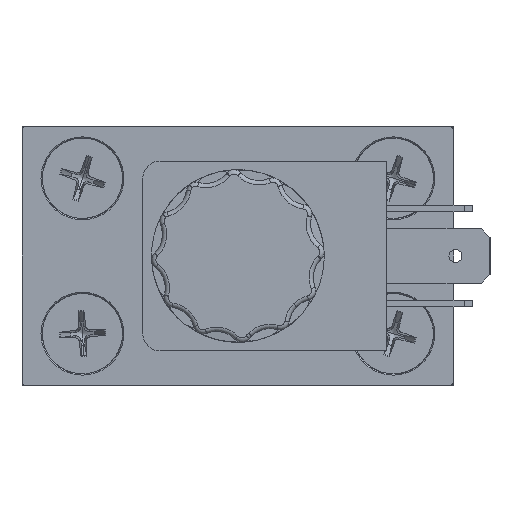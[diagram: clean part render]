
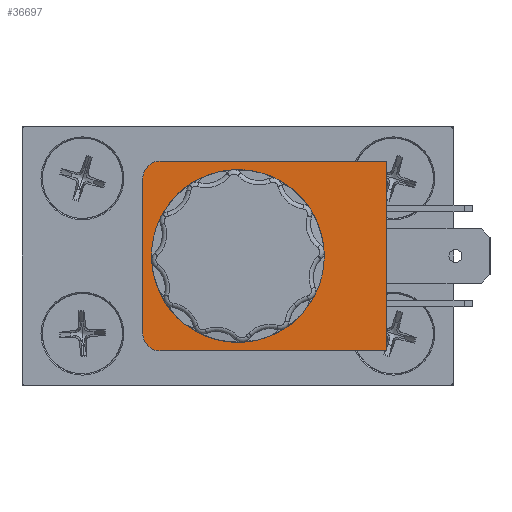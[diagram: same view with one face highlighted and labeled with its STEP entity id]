
A CAD part, left-side view. The second image highlights one B-rep face of the part: STEP entity #36697.
In plain terms, the highlighted planar face has unit normal (-1, 0, 0) as drawn and (0, 0, 1) by its records, which use the part's own axes.
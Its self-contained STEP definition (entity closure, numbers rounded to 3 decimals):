
#13411 = AXIS2_PLACEMENT_3D ( 'NONE', #25560, #25561, #25562 ) ;
#13413 = AXIS2_PLACEMENT_3D ( 'NONE', #25557, #25558, #25559 ) ;
#13415 = AXIS2_PLACEMENT_3D ( 'NONE', #25587, #25588, #25589 ) ;
#13430 = AXIS2_PLACEMENT_3D ( 'NONE', #25746, #25748, #25749 ) ;
#13437 = AXIS2_PLACEMENT_3D ( 'NONE', #25772, #25779, #25780 ) ;
#13440 = AXIS2_PLACEMENT_3D ( 'NONE', #25791, #25798, #25799 ) ;
#24669 = CIRCLE ( 'NONE', #13413, 2. ) ;
#24670 = CIRCLE ( 'NONE', #13411, 2. ) ;
#24686 = CIRCLE ( 'NONE', #13415, 8.3 ) ;
#24819 = CIRCLE ( 'NONE', #13430, 8.3 ) ;
#24834 = LINE ( 'NONE', #25783, #24842 ) ;
#24839 = CIRCLE ( 'NONE', #13437, 2. ) ;
#24842 = VECTOR ( 'NONE', #25787, 1000. ) ;
#24843 = LINE ( 'NONE', #25790, #24847 ) ;
#24847 = VECTOR ( 'NONE', #25794, 1000. ) ;
#24852 = CIRCLE ( 'NONE', #13440, 2. ) ;
#24855 = LINE ( 'NONE', #25804, #24856 ) ;
#24856 = VECTOR ( 'NONE', #25805, 1000. ) ;
#24859 = LINE ( 'NONE', #25808, #24860 ) ;
#24860 = VECTOR ( 'NONE', #25809, 1000. ) ;
#25557 = CARTESIAN_POINT ( 'NONE',  ( 9., 9., 30.5 ) ) ;
#25558 = DIRECTION ( 'NONE',  ( 0., 0., -1. ) ) ;
#25559 = DIRECTION ( 'NONE',  ( 0.707, 0.707, 0. ) ) ;
#25560 = CARTESIAN_POINT ( 'NONE',  ( -9., 9., 30.5 ) ) ;
#25561 = DIRECTION ( 'NONE',  ( 0., 0., -1. ) ) ;
#25562 = DIRECTION ( 'NONE',  ( -0.707, 0.707, 0. ) ) ;
#25587 = CARTESIAN_POINT ( 'NONE',  ( 0., 0., 30.5 ) ) ;
#25588 = DIRECTION ( 'NONE',  ( 0., 0., -1. ) ) ;
#25589 = DIRECTION ( 'NONE',  ( -1., 0., 0. ) ) ;
#25746 = CARTESIAN_POINT ( 'NONE',  ( 0., 0., 30.5 ) ) ;
#25748 = DIRECTION ( 'NONE',  ( 0., 0., -1. ) ) ;
#25749 = DIRECTION ( 'NONE',  ( -1., 0., 0. ) ) ;
#25772 = CARTESIAN_POINT ( 'NONE',  ( 9., 9., 30.5 ) ) ;
#25779 = DIRECTION ( 'NONE',  ( 0., 0., -1. ) ) ;
#25780 = DIRECTION ( 'NONE',  ( 0.707, 0.707, 0. ) ) ;
#25783 = CARTESIAN_POINT ( 'NONE',  ( -9., 11., 30.5 ) ) ;
#25787 = DIRECTION ( 'NONE',  ( 1., 0., 0. ) ) ;
#25790 = CARTESIAN_POINT ( 'NONE',  ( 11., 9., 30.5 ) ) ;
#25791 = CARTESIAN_POINT ( 'NONE',  ( -9., 9., 30.5 ) ) ;
#25794 = DIRECTION ( 'NONE',  ( 0., -1., 0. ) ) ;
#25798 = DIRECTION ( 'NONE',  ( 0., 0., -1. ) ) ;
#25799 = DIRECTION ( 'NONE',  ( -0.707, 0.707, 0. ) ) ;
#25804 = CARTESIAN_POINT ( 'NONE',  ( -11., -17.2, 30.5 ) ) ;
#25805 = DIRECTION ( 'NONE',  ( 0., 1., 0. ) ) ;
#25808 = CARTESIAN_POINT ( 'NONE',  ( 11., -17.2, 30.5 ) ) ;
#25809 = DIRECTION ( 'NONE',  ( -1., 0., 0. ) ) ;
#27443 = AXIS2_PLACEMENT_3D ( 'NONE', #35785, #35797, #35798 ) ;
#32368 = FACE_OUTER_BOUND ( 'NONE', #46151, .T. ) ;
#32394 = FACE_BOUND ( 'NONE', #46142, .T. ) ;
#32806 = EDGE_CURVE ( 'NONE', #44342, #44341, #24669, .T. ) ;
#32807 = EDGE_CURVE ( 'NONE', #44346, #44345, #24670, .T. ) ;
#32823 = EDGE_CURVE ( 'NONE', #44340, #44339, #24686, .T. ) ;
#32915 = EDGE_CURVE ( 'NONE', #44339, #44340, #24819, .T. ) ;
#32928 = EDGE_CURVE ( 'NONE', #43974, #44342, #24839, .T. ) ;
#32931 = EDGE_CURVE ( 'NONE', #44345, #43974, #24834, .T. ) ;
#32934 = EDGE_CURVE ( 'NONE', #44341, #44358, #24843, .T. ) ;
#32936 = EDGE_CURVE ( 'NONE', #44001, #44346, #24852, .T. ) ;
#32939 = EDGE_CURVE ( 'NONE', #44359, #44001, #24855, .T. ) ;
#32941 = EDGE_CURVE ( 'NONE', #44358, #44359, #24859, .T. ) ;
#35785 = CARTESIAN_POINT ( 'NONE',  ( 0., -3.1, 30.5 ) ) ;
#35789 = PLANE ( 'NONE',  #27443 ) ;
#35797 = DIRECTION ( 'NONE',  ( 0., 0., 1. ) ) ;
#35798 = DIRECTION ( 'NONE',  ( 0.707, 0.707, 0. ) ) ;
#36697 = ADVANCED_FACE ( 'NONE', ( #32368, #32394 ), #35789, .T. ) ;
#36793 = CARTESIAN_POINT ( 'NONE',  ( 9., 11., 30.5 ) ) ;
#36809 = CARTESIAN_POINT ( 'NONE',  ( -11., 9., 30.5 ) ) ;
#36832 = CARTESIAN_POINT ( 'NONE',  ( -8.3, 0., 30.5 ) ) ;
#36833 = CARTESIAN_POINT ( 'NONE',  ( 8.3, 0., 30.5 ) ) ;
#36834 = CARTESIAN_POINT ( 'NONE',  ( 11., 9., 30.5 ) ) ;
#36835 = CARTESIAN_POINT ( 'NONE',  ( 10.414, 10.414, 30.5 ) ) ;
#36838 = CARTESIAN_POINT ( 'NONE',  ( -9., 11., 30.5 ) ) ;
#36839 = CARTESIAN_POINT ( 'NONE',  ( -10.414, 10.414, 30.5 ) ) ;
#36851 = CARTESIAN_POINT ( 'NONE',  ( 11., -17.2, 30.5 ) ) ;
#36852 = CARTESIAN_POINT ( 'NONE',  ( -11., -17.2, 30.5 ) ) ;
#37973 = ORIENTED_EDGE ( 'NONE', *, *, #32928, .F. ) ;
#37974 = ORIENTED_EDGE ( 'NONE', *, *, #32931, .F. ) ;
#37975 = ORIENTED_EDGE ( 'NONE', *, *, #32807, .F. ) ;
#37976 = ORIENTED_EDGE ( 'NONE', *, *, #32936, .F. ) ;
#37977 = ORIENTED_EDGE ( 'NONE', *, *, #32939, .F. ) ;
#37978 = ORIENTED_EDGE ( 'NONE', *, *, #32941, .F. ) ;
#37979 = ORIENTED_EDGE ( 'NONE', *, *, #32934, .F. ) ;
#37980 = ORIENTED_EDGE ( 'NONE', *, *, #32806, .F. ) ;
#37981 = ORIENTED_EDGE ( 'NONE', *, *, #32915, .T. ) ;
#37982 = ORIENTED_EDGE ( 'NONE', *, *, #32823, .T. ) ;
#43974 = VERTEX_POINT ( 'NONE', #36793 ) ;
#44001 = VERTEX_POINT ( 'NONE', #36809 ) ;
#44339 = VERTEX_POINT ( 'NONE', #36832 ) ;
#44340 = VERTEX_POINT ( 'NONE', #36833 ) ;
#44341 = VERTEX_POINT ( 'NONE', #36834 ) ;
#44342 = VERTEX_POINT ( 'NONE', #36835 ) ;
#44345 = VERTEX_POINT ( 'NONE', #36838 ) ;
#44346 = VERTEX_POINT ( 'NONE', #36839 ) ;
#44358 = VERTEX_POINT ( 'NONE', #36851 ) ;
#44359 = VERTEX_POINT ( 'NONE', #36852 ) ;
#46142 = EDGE_LOOP ( 'NONE', ( #37981, #37982 ) ) ;
#46151 = EDGE_LOOP ( 'NONE', ( #37973, #37974, #37975, #37976, #37977, #37978, #37979, #37980 ) ) ;
